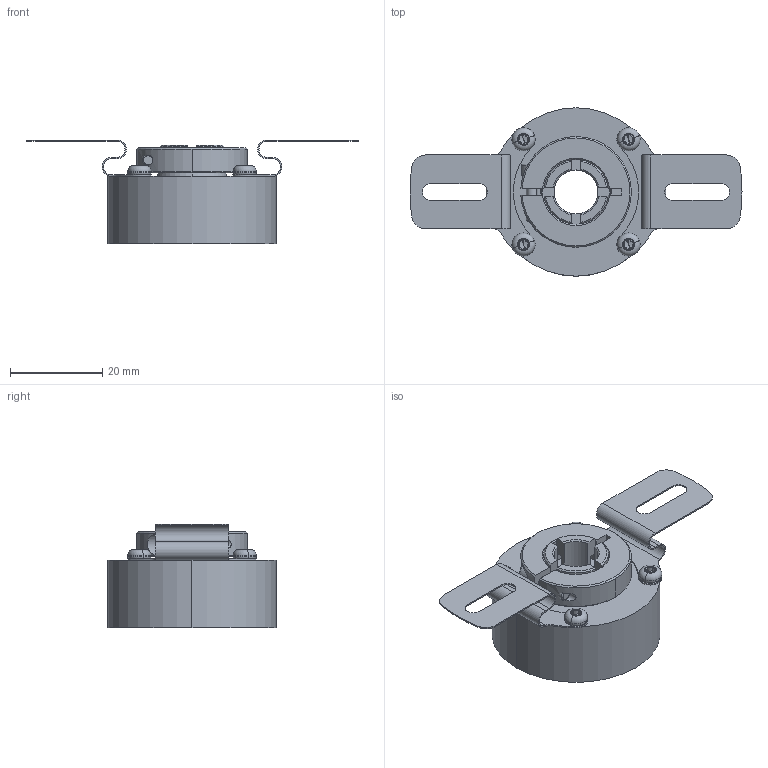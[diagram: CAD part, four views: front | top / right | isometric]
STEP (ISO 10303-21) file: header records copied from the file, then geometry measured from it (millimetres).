
FILE_DESCRIPTION (( 'STEP AP214' ), '1' );
FILE_NAME ('drawing-ucd-ksbd-q3a-n.STEP', '2017-02-23T12:28:41', ( '' ), ( '' ), 'SwSTEP 2.0', 'SolidWorks 2015', '' );
FILE_SCHEMA (( 'AUTOMOTIVE_DESIGN' ));
Length unit declared in the file: millimetre
Products named in the file (1): drawing-ucd-ksbd-q3a-n
Bounding box: 72 x 36.5 x 22.55 mm (x, y, z)
Volume: 14172.5 mm3; surface area: 18785.9 mm2
Topology: 30 solids, 31 shells, 615 faces, 1516 edges, 931 vertices
Faces by surface type: cylinder 183, cone 166, plane 144, bspline 78, torus 44
Entity records: 28108 total; most frequent: CARTESIAN_POINT 6667, DIRECTION 3182, ORIENTED_EDGE 2916, EDGE_CURVE 1458, AXIS2_PLACEMENT_3D 1370, VERTEX_POINT 931, CIRCLE 832, EDGE_LOOP 683
